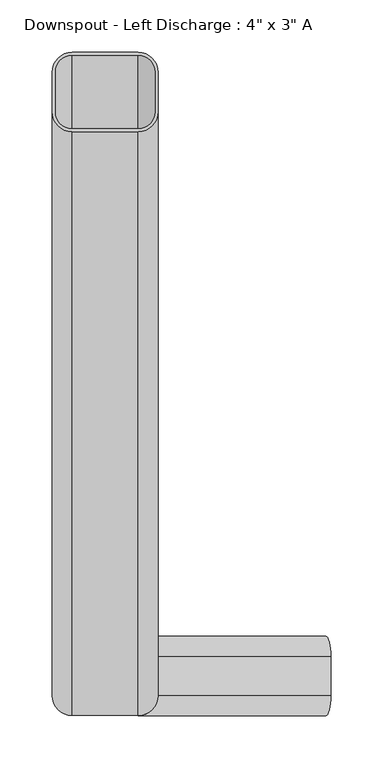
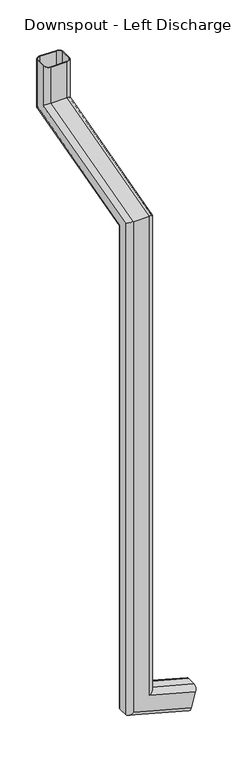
"""IFC4 building model written with IfcOpenShell, lengths in millimetres: proxy geometry."""

from ifc_helpers import new_model, si_unit, frame, origin, place, context, project, spatial, polyline, circle_curve, ellipse_curve, source, transform, mapped, element, save
from ifc_brep_helpers import plane_surface, cylinder_surface, revolved_surface, advanced_brep


def proxy_def5cd80(model_context):
    return source(origin(), model_context, "Body", "AdvancedBrep", [
        advanced_brep(
        [(216.3480075, 184.15, 201.469032), (211.4175047, 165.1, 183.068145), (194.9824953, 165.1, 121.731855), (190.0519925, 184.15, 103.330968), (190.0519925, 222.25, 103.330968), (194.9824953, 241.3, 121.731855), (211.4175047, 241.3, 183.068145), (216.3480075, 222.25, 201.469032), (215.526257, 184.15, 198.4022175), (215.526257, 222.25, 198.4022175), (211.4175047, 238.125, 183.068145), (194.9824953, 238.125, 121.731855), (190.873743, 222.25, 106.3977825), (190.873743, 184.15, 106.3977825), (194.9824953, 168.275, 121.731855), (211.4175047, 168.275, 183.068145), (31.75, 165.1, 231.2099078), (50.8, 184.15, 245.8274869), (50.8, 184.15, 2193.2213622), (31.75, 165.1, 2207.8389413), (-50.8, 184.15, 167.8670649), (-31.75, 165.1, 182.484644), (-31.75, 165.1, 2207.8389413), (-50.8, 184.15, 2193.2213622), (-50.8, 222.25, 167.8670649), (-50.8, 742.95, 2342.9513709), (-50.8, 742.95, 2506.1337918), (-50.8, 781.05, 2506.1337918), (-50.8, 781.05, 2313.7162127), (-50.8, 222.25, 2163.9862039), (-31.75, 241.3, 182.484644), (-31.75, 241.3, 2149.3686248), (50.8, 222.25, 245.8274869), (31.75, 241.3, 231.2099078), (31.75, 241.3, 2149.3686248), (50.8, 222.25, 2163.9862039), (50.8, 781.05, 2313.7162127), (50.8, 781.05, 2506.1337918), (50.8, 742.95, 2506.1337918), (50.8, 742.95, 2342.9513709), (47.625, 222.25, 243.3912237), (47.625, 184.15, 243.3912237), (47.625, 184.15, 2193.2213622), (47.625, 742.95, 2342.9513709), (47.625, 742.95, 2506.1337918), (47.625, 781.05, 2506.1337918), (47.625, 781.05, 2313.7162127), (47.625, 222.25, 2163.9862039), (31.75, 238.125, 231.2099078), (31.75, 238.125, 2151.804888), (-47.625, 222.25, 170.3033281), (-31.75, 238.125, 182.484644), (-31.75, 238.125, 2151.804888), (-47.625, 222.25, 2163.9862039), (-47.625, 184.15, 170.3033281), (-47.625, 781.05, 2313.7162127), (-47.625, 781.05, 2506.1337918), (-47.625, 742.95, 2506.1337918), (-47.625, 742.95, 2342.9513709), (-47.625, 184.15, 2193.2213622), (-31.75, 168.275, 182.484644), (-31.75, 168.275, 2205.4026781), (31.75, 168.275, 231.2099078), (31.75, 168.275, 2205.4026781), (31.75, 723.9, 2357.56895), (-31.75, 723.9, 2357.56895), (-31.75, 800.1, 2299.0986335), (31.75, 800.1, 2299.0986335), (31.75, 796.925, 2301.5348967), (-31.75, 796.925, 2301.5348967), (-31.75, 727.075, 2355.1326868), (31.75, 727.075, 2355.1326868), (31.75, 800.1, 2506.1337918), (-31.75, 800.1, 2506.1337918), (-31.75, 723.9, 2506.1337918), (31.75, 723.9, 2506.1337918), (31.75, 727.075, 2506.1337918), (-31.75, 727.075, 2506.1337918), (-31.75, 796.925, 2506.1337918), (31.75, 796.925, 2506.1337918)],
        [
            (0, 1, circle_curve(frame((211.4175047, 184.15, 183.068145), z_axis=(0.9659258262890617, 0.0, -0.2588190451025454), x_axis=(0.0, -1.0, 0.0)), 19.05)),
            (1, 2),
            (2, 3, circle_curve(frame((194.9824953, 184.15, 121.731855), z_axis=(0.9659258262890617, 0.0, -0.2588190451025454), x_axis=(0.0, -1.0, 0.0)), 19.05)),
            (3, 4),
            (4, 5, circle_curve(frame((194.9824953, 222.25, 121.731855), z_axis=(0.9659258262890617, 0.0, -0.2588190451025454), x_axis=(0.0, -1.0, 0.0)), 19.05)),
            (5, 6),
            (6, 7, circle_curve(frame((211.4175047, 222.25, 183.068145), z_axis=(0.9659258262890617, 0.0, -0.2588190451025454), x_axis=(0.0, -1.0, 0.0)), 19.05)),
            (7, 0),
            (8, 9),
            (9, 10, circle_curve(frame((211.4175047, 222.25, 183.068145), z_axis=(-0.9659258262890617, 0.0, 0.2588190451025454), x_axis=(0.0, -1.0, 0.0)), 15.875)),
            (10, 11),
            (11, 12, circle_curve(frame((194.9824953, 222.25, 121.731855), z_axis=(-0.9659258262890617, 0.0, 0.2588190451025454), x_axis=(0.0, -1.0, 0.0)), 15.875)),
            (12, 13),
            (13, 14, circle_curve(frame((194.9824953, 184.15, 121.731855), z_axis=(-0.9659258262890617, 0.0, 0.2588190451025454), x_axis=(0.0, -1.0, 0.0)), 15.875)),
            (14, 15),
            (15, 8, circle_curve(frame((211.4175047, 184.15, 183.068145), z_axis=(-0.9659258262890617, 0.0, 0.2588190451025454), x_axis=(0.0, -1.0, 0.0)), 15.875)),
            (16, 17, ellipse_curve(frame((31.75, 184.15, 231.2099078), z_axis=(-0.6087614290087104, 0.0, 0.7933533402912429), x_axis=(-0.7933533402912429, 0.0, -0.6087614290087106)), 24.0119995, 19.05)),
            (17, 18),
            (18, 19, ellipse_curve(frame((31.75, 184.15, 2193.2213622), z_axis=(0.0, -0.6087614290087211, -0.7933533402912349), x_axis=(0.0, 0.793353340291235, -0.6087614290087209)), 24.0119995, 19.05)),
            (19, 16),
            (20, 21, ellipse_curve(frame((-31.75, 184.15, 182.484644), z_axis=(-0.6087614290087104, 0.0, 0.7933533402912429), x_axis=(-0.7933533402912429, 0.0, -0.6087614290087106)), 24.0119995, 19.05)),
            (21, 22),
            (22, 23, ellipse_curve(frame((-31.75, 184.15, 2193.2213622), z_axis=(0.0, -0.6087614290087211, -0.7933533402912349), x_axis=(0.0, 0.793353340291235, -0.6087614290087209)), 24.0119995, 19.05)),
            (23, 20),
            (24, 20),
            (23, 25),
            (25, 26),
            (26, 27),
            (27, 28),
            (28, 29),
            (29, 24),
            (30, 24, ellipse_curve(frame((-31.75, 222.25, 182.484644), z_axis=(-0.6087614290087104, 0.0, 0.7933533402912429), x_axis=(-0.7933533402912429, 0.0, -0.6087614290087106)), 24.0119995, 19.05)),
            (29, 31, ellipse_curve(frame((-31.75, 222.25, 2163.9862039), z_axis=(0.0, -0.6087614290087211, -0.7933533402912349), x_axis=(0.0, 0.793353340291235, -0.6087614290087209)), 24.0119995, 19.05)),
            (31, 30),
            (32, 33, ellipse_curve(frame((31.75, 222.25, 231.2099078), z_axis=(-0.6087614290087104, 0.0, 0.7933533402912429), x_axis=(-0.7933533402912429, 0.0, -0.6087614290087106)), 24.0119995, 19.05)),
            (33, 34),
            (34, 35, ellipse_curve(frame((31.75, 222.25, 2163.9862039), z_axis=(0.0, -0.6087614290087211, -0.7933533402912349), x_axis=(0.0, 0.793353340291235, -0.6087614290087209)), 24.0119995, 19.05)),
            (35, 32),
            (17, 32),
            (35, 36),
            (36, 37),
            (37, 38),
            (38, 39),
            (39, 18),
            (40, 41),
            (41, 42),
            (42, 43),
            (43, 44),
            (44, 45),
            (45, 46),
            (46, 47),
            (47, 40),
            (48, 40, ellipse_curve(frame((31.75, 222.25, 231.2099078), z_axis=(0.6087614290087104, 0.0, -0.7933533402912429), x_axis=(0.7933533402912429, 0.0, 0.6087614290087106)), 20.0099996, 15.875)),
            (47, 49, ellipse_curve(frame((31.75, 222.25, 2163.9862039), z_axis=(0.0, 0.6087614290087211, 0.7933533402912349), x_axis=(0.0, -0.793353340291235, 0.6087614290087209)), 20.0099996, 15.875)),
            (49, 48),
            (50, 51, ellipse_curve(frame((-31.75, 222.25, 182.484644), z_axis=(0.6087614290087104, 0.0, -0.7933533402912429), x_axis=(0.7933533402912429, 0.0, 0.6087614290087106)), 20.0099996, 15.875)),
            (51, 52),
            (52, 53, ellipse_curve(frame((-31.75, 222.25, 2163.9862039), z_axis=(0.0, 0.6087614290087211, 0.7933533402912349), x_axis=(0.0, -0.793353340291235, 0.6087614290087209)), 20.0099996, 15.875)),
            (53, 50),
            (54, 50),
            (53, 55),
            (55, 56),
            (56, 57),
            (57, 58),
            (58, 59),
            (59, 54),
            (60, 54, ellipse_curve(frame((-31.75, 184.15, 182.484644), z_axis=(0.6087614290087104, 0.0, -0.7933533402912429), x_axis=(0.7933533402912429, 0.0, 0.6087614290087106)), 20.0099996, 15.875)),
            (59, 61, ellipse_curve(frame((-31.75, 184.15, 2193.2213622), z_axis=(0.0, 0.6087614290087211, 0.7933533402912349), x_axis=(0.0, -0.793353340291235, 0.6087614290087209)), 20.0099996, 15.875)),
            (61, 60),
            (41, 62, ellipse_curve(frame((31.75, 184.15, 231.2099078), z_axis=(0.6087614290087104, 0.0, -0.7933533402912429), x_axis=(0.7933533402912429, 0.0, 0.6087614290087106)), 20.0099996, 15.875)),
            (62, 63),
            (63, 42, ellipse_curve(frame((31.75, 184.15, 2193.2213622), z_axis=(0.0, 0.6087614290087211, 0.7933533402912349), x_axis=(0.0, -0.793353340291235, 0.6087614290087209)), 20.0099996, 15.875)),
            (39, 64, ellipse_curve(frame((31.75, 742.95, 2342.9513709), z_axis=(0.0, -0.6087614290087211, -0.7933533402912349), x_axis=(0.0, -0.7933533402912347, 0.6087614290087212)), 24.0119995, 19.05)),
            (64, 19),
            (22, 19),
            (64, 65),
            (65, 22),
            (65, 25, ellipse_curve(frame((-31.75, 742.95, 2342.9513709), z_axis=(0.0, -0.6087614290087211, -0.7933533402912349), x_axis=(0.0, -0.7933533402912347, 0.6087614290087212)), 24.0119995, 19.05)),
            (28, 66, ellipse_curve(frame((-31.75, 781.05, 2313.7162127), z_axis=(0.0, -0.6087614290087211, -0.7933533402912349), x_axis=(0.0, -0.7933533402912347, 0.6087614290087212)), 24.0119995, 19.05)),
            (66, 31),
            (34, 31),
            (66, 67),
            (67, 34),
            (67, 36, ellipse_curve(frame((31.75, 781.05, 2313.7162127), z_axis=(0.0, -0.6087614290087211, -0.7933533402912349), x_axis=(0.0, -0.7933533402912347, 0.6087614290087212)), 24.0119995, 19.05)),
            (46, 68, ellipse_curve(frame((31.75, 781.05, 2313.7162127), z_axis=(0.0, 0.6087614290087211, 0.7933533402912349), x_axis=(0.0, 0.7933533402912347, -0.6087614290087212)), 20.0099996, 15.875)),
            (68, 49),
            (52, 49),
            (68, 69),
            (69, 52),
            (69, 55, ellipse_curve(frame((-31.75, 781.05, 2313.7162127), z_axis=(0.0, 0.6087614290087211, 0.7933533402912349), x_axis=(0.0, 0.7933533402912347, -0.6087614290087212)), 20.0099996, 15.875)),
            (58, 70, ellipse_curve(frame((-31.75, 742.95, 2342.9513709), z_axis=(0.0, 0.6087614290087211, 0.7933533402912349), x_axis=(0.0, 0.7933533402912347, -0.6087614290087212)), 20.0099996, 15.875)),
            (70, 61),
            (63, 61),
            (70, 71),
            (71, 63),
            (71, 43, ellipse_curve(frame((31.75, 742.95, 2342.9513709), z_axis=(0.0, 0.6087614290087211, 0.7933533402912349), x_axis=(0.0, 0.7933533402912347, -0.6087614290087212)), 20.0099996, 15.875)),
            (37, 72, circle_curve(frame((31.75, 781.05, 2506.1337918), z_axis=(0.0, 0.0, 1.0), x_axis=(0.0, -1.0, 0.0)), 19.05)),
            (72, 73),
            (73, 27, circle_curve(frame((-31.75, 781.05, 2506.1337918), z_axis=(0.0, 0.0, 1.0), x_axis=(0.0, -1.0, 0.0)), 19.05)),
            (26, 74, circle_curve(frame((-31.75, 742.95, 2506.1337918), z_axis=(0.0, 0.0, 1.0), x_axis=(0.0, -1.0, 0.0)), 19.05)),
            (74, 75),
            (75, 38, circle_curve(frame((31.75, 742.95, 2506.1337918), z_axis=(0.0, 0.0, 1.0), x_axis=(0.0, -1.0, 0.0)), 19.05)),
            (44, 76, circle_curve(frame((31.75, 742.95, 2506.1337918), z_axis=(0.0, 0.0, -1.0), x_axis=(0.0, -1.0, 0.0)), 15.875)),
            (76, 77),
            (77, 57, circle_curve(frame((-31.75, 742.95, 2506.1337918), z_axis=(0.0, 0.0, -1.0), x_axis=(0.0, -1.0, 0.0)), 15.875)),
            (56, 78, circle_curve(frame((-31.75, 781.05, 2506.1337918), z_axis=(0.0, 0.0, -1.0), x_axis=(0.0, -1.0, 0.0)), 15.875)),
            (78, 79),
            (79, 45, circle_curve(frame((31.75, 781.05, 2506.1337918), z_axis=(0.0, 0.0, -1.0), x_axis=(0.0, -1.0, 0.0)), 15.875)),
            (75, 64),
            (74, 65),
            (73, 66),
            (72, 67),
            (79, 68),
            (78, 69),
            (77, 70),
            (76, 71),
            (0, 17),
            (16, 1),
            (21, 2),
            (20, 3),
            (24, 4),
            (30, 5),
            (33, 6),
            (32, 7),
            (8, 41),
            (40, 9),
            (48, 10),
            (51, 11),
            (50, 12),
            (54, 13),
            (60, 14),
            (62, 15),
        ],
        [
            plane_surface(frame((203.2, 147.5002825, 152.4), z_axis=(0.9659258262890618, 0.0, -0.2588190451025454), x_axis=(0.2588190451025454, 0.0, 0.9659258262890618))),
            cylinder_surface(frame((31.75, 184.15, 206.8472759), z_axis=(0.0, 0.0, -1.0), x_axis=(0.0, -1.0, 0.0)), 19.05),
            cylinder_surface(frame((-31.75, 184.15, 206.8472759), z_axis=(0.0, 0.0, -1.0), x_axis=(0.0, -1.0, 0.0)), 19.05),
            plane_surface(frame((-50.8, 184.15, 167.8670649), z_axis=(-1.0, 0.0, 0.0), x_axis=(0.0, 0.0, 1.0))),
            cylinder_surface(frame((-31.75, 222.25, 206.8472759), z_axis=(0.0, 0.0, -1.0), x_axis=(0.0, -1.0, 0.0)), 19.05),
            cylinder_surface(frame((31.75, 222.25, 206.8472759), z_axis=(0.0, 0.0, -1.0), x_axis=(0.0, -1.0, 0.0)), 19.05),
            plane_surface(frame((50.8, 222.25, 245.8274869), z_axis=(1.0, 0.0, 0.0), x_axis=(0.0, 0.0, 1.0))),
            plane_surface(frame((47.625, 184.15, 243.3912237), z_axis=(-1.0, 0.0, 0.0), x_axis=(0.0, 0.0, 1.0))),
            revolved_surface(polyline([(31.75, 206.375, 2176.1675198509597), (31.75, 206.375, 219.02859184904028)]), (31.75, 222.25, 206.8472759), (0.0, 0.0, 1.0)),
            revolved_surface(polyline([(-31.75, 206.375, 2176.1675198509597), (-31.75, 206.375, 170.30332804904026)]), (-31.75, 222.25, 206.8472759), (0.0, 0.0, 1.0)),
            plane_surface(frame((-47.625, 222.25, 170.3033281), z_axis=(1.0, 0.0, 0.0), x_axis=(0.0, 0.0, 1.0))),
            revolved_surface(polyline([(-31.75, 168.275, 2205.4026781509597), (-31.75, 168.275, 170.30332804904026)]), (-31.75, 184.15, 206.8472759), (0.0, 0.0, 1.0)),
            revolved_surface(polyline([(31.75, 168.275, 2205.4026781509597), (31.75, 168.275, 219.02859184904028)]), (31.75, 184.15, 206.8472759), (0.0, 0.0, 1.0)),
            cylinder_surface(frame((31.75, 198.2694972, 2197.00467), z_axis=(0.0, -0.9659258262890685, -0.25881904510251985), x_axis=(0.0, -0.25881904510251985, 0.9659258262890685)), 19.05),
            plane_surface(frame((31.75, 165.1, 2207.8389413), z_axis=(0.0, -0.2588190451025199, 0.9659258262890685), x_axis=(0.0, 0.9659258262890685, 0.2588190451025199))),
            cylinder_surface(frame((-31.75, 198.2694972, 2197.00467), z_axis=(0.0, -0.9659258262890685, -0.25881904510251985), x_axis=(0.0, -0.25881904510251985, 0.9659258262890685)), 19.05),
            cylinder_surface(frame((-31.75, 208.1305028, 2160.2028961), z_axis=(0.0, -0.9659258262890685, -0.25881904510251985), x_axis=(0.0, -0.25881904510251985, 0.9659258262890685)), 19.05),
            plane_surface(frame((-31.75, 241.3, 2149.3686248), z_axis=(0.0, 0.25881904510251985, -0.9659258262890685), x_axis=(0.0, 0.9659258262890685, 0.25881904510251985))),
            cylinder_surface(frame((31.75, 208.1305028, 2160.2028961), z_axis=(0.0, -0.9659258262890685, -0.25881904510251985), x_axis=(0.0, -0.25881904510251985, 0.9659258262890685)), 19.05),
            revolved_surface(polyline([(31.75, 788.7074953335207, 2332.2030417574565), (31.75, 206.3749999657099, 2176.1675198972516)]), (31.75, 208.1305028, 2160.2028961), (0.0, 0.9659258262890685, 0.25881904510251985)),
            plane_surface(frame((31.75, 238.125, 2151.804888), z_axis=(0.0, -0.25881904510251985, 0.9659258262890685), x_axis=(0.0, 0.9659258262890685, 0.25881904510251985))),
            revolved_surface(polyline([(-31.75, 788.7074953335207, 2332.2030417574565), (-31.75, 206.3749999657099, 2176.1675198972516)]), (-31.75, 208.1305028, 2160.2028961), (0.0, 0.9659258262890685, 0.25881904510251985)),
            revolved_surface(polyline([(-31.75, 750.6074953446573, 2361.438199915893), (-31.75, 168.2750000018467, 2205.402678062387)]), (-31.75, 198.2694972, 2197.00467), (0.0, 0.9659258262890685, 0.25881904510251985)),
            plane_surface(frame((-31.75, 168.275, 2205.4026781), z_axis=(0.0, 0.25881904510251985, -0.9659258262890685), x_axis=(0.0, 0.9659258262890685, 0.25881904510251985))),
            revolved_surface(polyline([(31.75, 750.6074953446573, 2361.438199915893), (31.75, 168.2750000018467, 2205.402678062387)]), (31.75, 198.2694972, 2197.00467), (0.0, 0.9659258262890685, 0.25881904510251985)),
            plane_surface(frame((0.0, 706.3002825, 2506.1337918), z_axis=(0.0, 0.0, 1.0), x_axis=(1.0, 0.0, 0.0))),
            cylinder_surface(frame((31.75, 742.95, 2328.3337918), z_axis=(0.0, 0.0, -1.0), x_axis=(0.0, -1.0, 0.0)), 19.05),
            plane_surface(frame((31.75, 723.9, 2357.56895), z_axis=(0.0, -1.0, 0.0), x_axis=(0.0, 0.0, 1.0))),
            cylinder_surface(frame((-31.75, 742.95, 2328.3337918), z_axis=(0.0, 0.0, -1.0), x_axis=(0.0, -1.0, 0.0)), 19.05),
            cylinder_surface(frame((-31.75, 781.05, 2328.3337918), z_axis=(0.0, 0.0, -1.0), x_axis=(0.0, -1.0, 0.0)), 19.05),
            plane_surface(frame((-31.75, 800.1, 2299.0986335), z_axis=(0.0, 1.0, 0.0), x_axis=(0.0, 0.0, 1.0))),
            cylinder_surface(frame((31.75, 781.05, 2328.3337918), z_axis=(0.0, 0.0, -1.0), x_axis=(0.0, -1.0, 0.0)), 19.05),
            revolved_surface(polyline([(31.75, 765.175, 2506.1337918), (31.75, 765.175, 2301.5348967)]), (31.75, 781.05, 2328.3337918), (0.0, 0.0, 1.0)),
            plane_surface(frame((31.75, 796.925, 2301.5348967), z_axis=(0.0, -1.0, 0.0), x_axis=(0.0, 0.0, 1.0))),
            revolved_surface(polyline([(-31.75, 765.175, 2506.1337918), (-31.75, 765.175, 2301.5348967)]), (-31.75, 781.05, 2328.3337918), (0.0, 0.0, 1.0)),
            revolved_surface(polyline([(-31.75, 727.075, 2506.1337918), (-31.75, 727.075, 2330.77005494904)]), (-31.75, 742.95, 2328.3337918), (0.0, 0.0, 1.0)),
            plane_surface(frame((-31.75, 727.075, 2355.1326868), z_axis=(0.0, 1.0, 0.0), x_axis=(0.0, 0.0, 1.0))),
            revolved_surface(polyline([(31.75, 727.075, 2506.1337918), (31.75, 727.075, 2330.77005494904)]), (31.75, 742.95, 2328.3337918), (0.0, 0.0, 1.0)),
            cylinder_surface(frame((211.4175047, 184.15, 183.068145), z_axis=(0.9659258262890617, 0.0, -0.2588190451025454), x_axis=(0.0, -1.0, 0.0)), 19.05),
            plane_surface(frame((211.4175047, 165.1, 183.068145), z_axis=(0.0, -1.0000000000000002, 0.0), x_axis=(-0.9659258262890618, 0.0, 0.2588190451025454))),
            cylinder_surface(frame((194.9824953, 184.15, 121.731855), z_axis=(0.9659258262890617, 0.0, -0.2588190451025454), x_axis=(0.0, -1.0, 0.0)), 19.05),
            plane_surface(frame((190.0519925, 184.15, 103.330968), z_axis=(-0.25881904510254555, 0.0, -0.9659258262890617), x_axis=(-0.9659258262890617, 0.0, 0.25881904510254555))),
            cylinder_surface(frame((194.9824953, 222.25, 121.731855), z_axis=(0.9659258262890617, 0.0, -0.2588190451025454), x_axis=(0.0, -1.0, 0.0)), 19.05),
            plane_surface(frame((194.9824953, 241.3, 121.731855), z_axis=(0.0, 1.0, 0.0), x_axis=(-0.9659258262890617, 0.0, 0.25881904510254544))),
            cylinder_surface(frame((211.4175047, 222.25, 183.068145), z_axis=(0.9659258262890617, 0.0, -0.2588190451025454), x_axis=(0.0, -1.0, 0.0)), 19.05),
            plane_surface(frame((216.3480075, 222.25, 201.469032), z_axis=(0.25881904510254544, 0.0, 0.9659258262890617), x_axis=(-0.9659258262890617, 0.0, 0.25881904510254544))),
            plane_surface(frame((215.526257, 184.15, 198.4022175), z_axis=(-0.25881904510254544, 0.0, -0.9659258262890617), x_axis=(-0.9659258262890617, 0.0, 0.25881904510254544))),
            revolved_surface(polyline([(19.983752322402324, 206.375, 234.36266435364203), (211.4175047, 206.375, 183.068145)]), (211.4175047, 222.25, 183.068145), (-0.9659258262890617, 0.0, 0.2588190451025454)),
            plane_surface(frame((211.4175047, 238.125, 183.068145), z_axis=(0.0, -1.0, 0.0), x_axis=(-0.9659258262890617, 0.0, 0.25881904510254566))),
            revolved_surface(polyline([(-43.51624767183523, 206.375, 185.63740057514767), (194.9824953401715, 206.375, 121.73185498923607)]), (194.9824953, 222.25, 121.731855), (-0.9659258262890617, 0.0, 0.2588190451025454)),
            plane_surface(frame((190.873743, 222.25, 106.3977825), z_axis=(0.2588190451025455, 0.0, 0.9659258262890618), x_axis=(-0.9659258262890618, 0.0, 0.2588190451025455))),
            revolved_surface(polyline([(-43.51624767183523, 168.275, 185.63740057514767), (194.9824953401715, 168.275, 121.73185498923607)]), (194.9824953, 184.15, 121.731855), (-0.9659258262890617, 0.0, 0.2588190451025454)),
            plane_surface(frame((194.9824953, 168.275, 121.731855), z_axis=(0.0, 1.0, 0.0), x_axis=(-0.9659258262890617, 0.0, 0.2588190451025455))),
            revolved_surface(polyline([(19.983752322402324, 168.275, 234.36266435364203), (211.4175047, 168.275, 183.068145)]), (211.4175047, 184.15, 183.068145), (-0.9659258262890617, 0.0, 0.2588190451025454)),
        ],
        [
            (0, [[1, 2, 3, 4, 5, 6, 7, 8], [9, 10, 11, 12, 13, 14, 15, 16]]),
            (1, [[17, 18, 19, 20]]),
            (2, [[21, 22, 23, 24]]),
            (3, [[25, -24, 26, 27, 28, 29, 30, 31]]),
            (4, [[32, -31, 33, 34]]),
            (5, [[35, 36, 37, 38]]),
            (6, [[39, -38, 40, 41, 42, 43, 44, -18]]),
            (7, [[45, 46, 47, 48, 49, 50, 51, 52]]),
            (8, [[53, -52, 54, 55]]),
            (9, [[56, 57, 58, 59]]),
            (10, [[60, -59, 61, 62, 63, 64, 65, 66]]),
            (11, [[67, -66, 68, 69]]),
            (12, [[70, 71, 72, -46]]),
            (13, [[-19, -44, 73, 74]]),
            (14, [[75, -74, 76, 77]]),
            (15, [[-23, -77, 78, -26]]),
            (16, [[-33, -30, 79, 80]]),
            (17, [[81, -80, 82, 83]]),
            (18, [[-37, -83, 84, -40]]),
            (19, [[-54, -51, 85, 86]]),
            (20, [[87, -86, 88, 89]]),
            (21, [[-58, -89, 90, -61]]),
            (22, [[-68, -65, 91, 92]]),
            (23, [[93, -92, 94, 95]]),
            (24, [[-72, -95, 96, -47]]),
            (25, [[-42, 97, 98, 99, -28, 100, 101, 102], [103, 104, 105, -63, 106, 107, 108, -49]]),
            (26, [[-73, -43, -102, 109]]),
            (27, [[-76, -109, -101, 110]]),
            (28, [[-78, -110, -100, -27]]),
            (29, [[-79, -29, -99, 111]]),
            (30, [[-82, -111, -98, 112]]),
            (31, [[-84, -112, -97, -41]]),
            (32, [[-85, -50, -108, 113]]),
            (33, [[-88, -113, -107, 114]]),
            (34, [[-90, -114, -106, -62]]),
            (35, [[-91, -64, -105, 115]]),
            (36, [[-94, -115, -104, 116]]),
            (37, [[-96, -116, -103, -48]]),
            (38, [[-1, 117, -17, 118]]),
            (39, [[-2, -118, -20, -75, -22, 119]]),
            (40, [[-3, -119, -21, 120]]),
            (41, [[-4, -120, -25, 121]]),
            (42, [[-5, -121, -32, 122]]),
            (43, [[-6, -122, -34, -81, -36, 123]]),
            (44, [[-7, -123, -35, 124]]),
            (45, [[-8, -124, -39, -117]]),
            (46, [[-9, 125, -45, 126]]),
            (47, [[-10, -126, -53, 127]]),
            (48, [[-11, -127, -55, -87, -57, 128]]),
            (49, [[-12, -128, -56, 129]]),
            (50, [[-13, -129, -60, 130]]),
            (51, [[-14, -130, -67, 131]]),
            (52, [[-15, -131, -69, -93, -71, 132]]),
            (53, [[-16, -132, -70, -125]]),
        ],
    ),
    ])


if __name__ == "__main__":
    model = new_model("IFC4")
    model_context = context("Model", 3, world=origin())
    ifc_project = project(units=[si_unit("LENGTHUNIT", "METRE", prefix="MILLI")], contexts=[model_context])
    site = spatial("IfcSite", under=ifc_project)
    building = spatial("IfcBuilding", under=site)
    placement = place(None, origin())
    proxy_shape = proxy_def5cd80(model_context)
    element("IfcBuildingElementProxy", 1, Name="Downspout - Left Discharge : 4\" x 3\" A", ObjectType="Downspout - Left Discharge : 4\" x 3\" A", at=placement, inside=building, context=model_context, shape_type="MappedRepresentation", body=[
        mapped(proxy_shape, transform((0.0, 0.0, 0.0), x_axis=(1.0, 0.0, 0.0), y_axis=(0.0, 1.0, 0.0), z_axis=(0.0, 0.0, 1.0))),
    ])
    save(model, "model.ifc")
